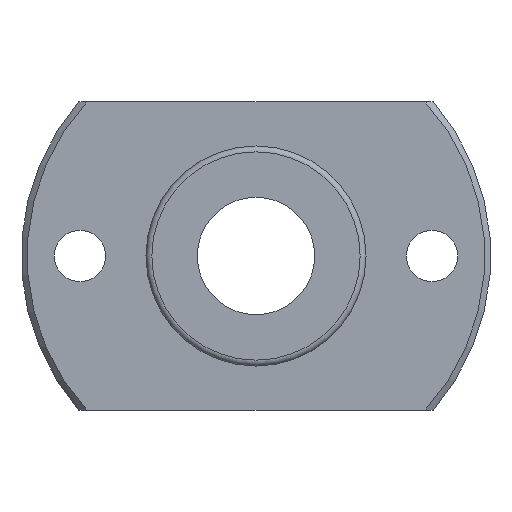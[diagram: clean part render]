
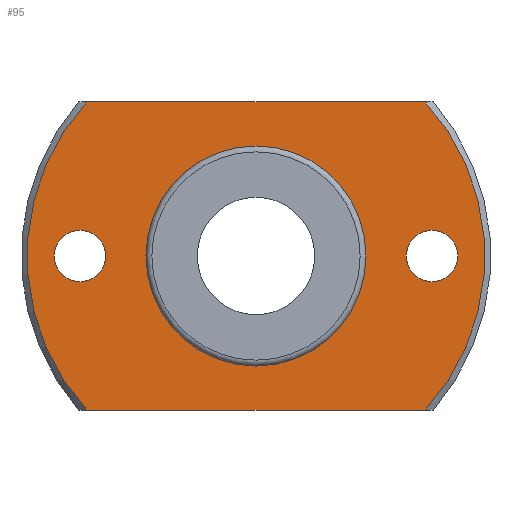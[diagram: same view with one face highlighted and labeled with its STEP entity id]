
A CAD part, left-side view. The second image highlights one B-rep face of the part: STEP entity #95.
In plain terms, the highlighted planar face has unit normal (-1, 0, 0).
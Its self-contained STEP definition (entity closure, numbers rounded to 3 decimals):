
#95=ADVANCED_FACE('',(#153,#154,#155,#156),#157,.T.);
#153=FACE_BOUND('',#215,.T.);
#154=FACE_BOUND('',#216,.T.);
#155=FACE_BOUND('',#217,.T.);
#156=FACE_OUTER_BOUND('',#218,.T.);
#157=PLANE('',#219);
#215=EDGE_LOOP('',(#349));
#216=EDGE_LOOP('',(#350));
#217=EDGE_LOOP('',(#351));
#218=EDGE_LOOP('',(#352,#353,#354,#355));
#219=AXIS2_PLACEMENT_3D('',#356,#357,#358);
#349=ORIENTED_EDGE('',*,*,#397,.F.);
#350=ORIENTED_EDGE('',*,*,#398,.T.);
#351=ORIENTED_EDGE('',*,*,#392,.T.);
#352=ORIENTED_EDGE('',*,*,#376,.T.);
#353=ORIENTED_EDGE('',*,*,#401,.T.);
#354=ORIENTED_EDGE('',*,*,#404,.T.);
#355=ORIENTED_EDGE('',*,*,#366,.T.);
#356=CARTESIAN_POINT('',(-5.0,0.,11.475));
#357=DIRECTION('',(-1.0,0.,0.));
#358=DIRECTION('',(0.,-1.0,0.));
#366=EDGE_CURVE('',#405,#406,#407,.T.);
#376=EDGE_CURVE('',#406,#423,#425,.T.);
#392=EDGE_CURVE('',#452,#452,#453,.T.);
#397=EDGE_CURVE('',#461,#461,#462,.T.);
#398=EDGE_CURVE('',#463,#463,#464,.T.);
#401=EDGE_CURVE('',#423,#469,#470,.T.);
#404=EDGE_CURVE('',#469,#405,#474,.T.);
#405=VERTEX_POINT('',#475);
#406=VERTEX_POINT('',#476);
#407=LINE('',#477,#478);
#423=VERTEX_POINT('',#509);
#425=CIRCLE('',#514,15.6);
#452=VERTEX_POINT('',#547);
#453=CIRCLE('',#548,1.75);
#461=VERTEX_POINT('',#559);
#462=CIRCLE('',#560,7.35);
#463=VERTEX_POINT('',#561);
#464=CIRCLE('',#562,1.75);
#469=VERTEX_POINT('',#567);
#470=LINE('',#568,#569);
#474=CIRCLE('',#576,15.6);
#475=CARTESIAN_POINT('',(-5.0,-11.537,10.5));
#476=CARTESIAN_POINT('',(-5.0,11.537,10.5));
#477=CARTESIAN_POINT('',(-5.0,0.,10.5));
#478=VECTOR('',#577,1.0);
#509=CARTESIAN_POINT('',(-5.0,11.537,-10.5));
#514=AXIS2_PLACEMENT_3D('',#584,#585,#586);
#547=CARTESIAN_POINT('',(-5.0,-13.75,0.));
#548=AXIS2_PLACEMENT_3D('',#623,#624,#625);
#559=CARTESIAN_POINT('',(-5.0,0.,7.35));
#560=AXIS2_PLACEMENT_3D('',#635,#636,#637);
#561=CARTESIAN_POINT('',(-5.0,10.25,0.));
#562=AXIS2_PLACEMENT_3D('',#638,#639,#640);
#567=CARTESIAN_POINT('',(-5.0,-11.537,-10.5));
#568=CARTESIAN_POINT('',(-5.0,0.,-10.5));
#569=VECTOR('',#647,1.0);
#576=AXIS2_PLACEMENT_3D('',#651,#652,#653);
#577=DIRECTION('',(0.,1.0,0.));
#584=CARTESIAN_POINT('',(-5.0,0.,0.));
#585=DIRECTION('',(-1.0,0.,0.));
#586=DIRECTION('',(0.,0.0,1.0));
#623=CARTESIAN_POINT('',(-5.0,-12.0,0.));
#624=DIRECTION('',(1.0,0.,0.));
#625=DIRECTION('',(0.,1.0,0.));
#635=CARTESIAN_POINT('',(-5.0,0.,0.));
#636=DIRECTION('',(-1.0,0.,0.));
#637=DIRECTION('',(0.,0.0,1.0));
#638=CARTESIAN_POINT('',(-5.0,12.0,0.));
#639=DIRECTION('',(1.0,0.,0.));
#640=DIRECTION('',(0.,1.0,0.));
#647=DIRECTION('',(0.,-1.0,0.));
#651=CARTESIAN_POINT('',(-5.0,0.,0.));
#652=DIRECTION('',(-1.0,0.,0.));
#653=DIRECTION('',(0.,0.0,1.0));
